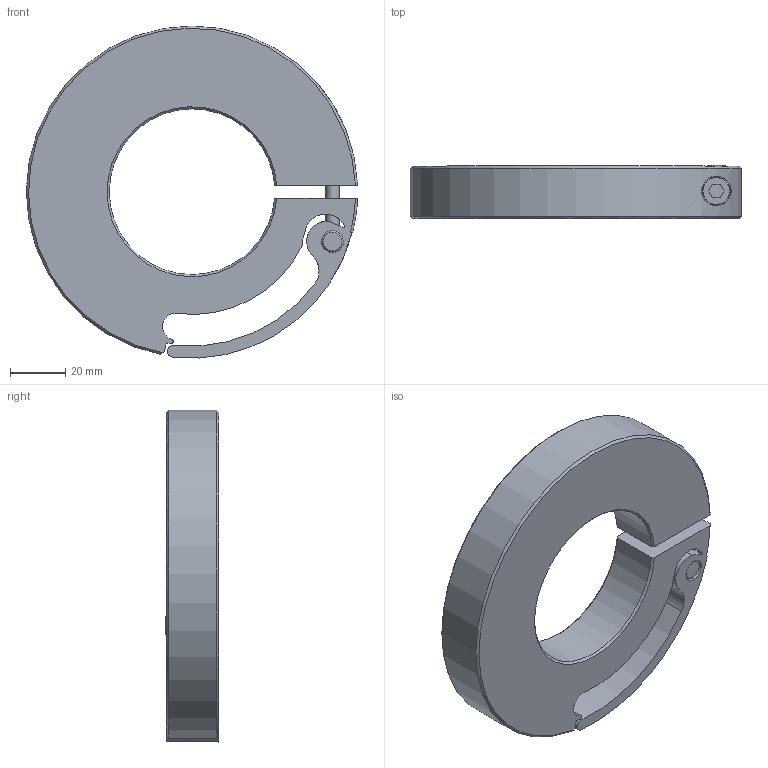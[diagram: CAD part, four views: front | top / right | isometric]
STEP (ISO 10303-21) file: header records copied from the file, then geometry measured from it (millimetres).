
FILE_DESCRIPTION((''),'2;1');
FILE_NAME('MQCL-60-A','2016-09-09T',('SYSTEM'),(''),'PRO/ENGINEER BY PARAMETRIC TECHNOLOGY CORPORATION, 2015110','PRO/ENGINEER BY PARAMETRIC TECHNOLOGY CORPORATION, 2015110','');
FILE_SCHEMA(('AUTOMOTIVE_DESIGN { 1 0 10303 214 1 1 1 1 }'));
Length unit declared in the file: metre
Products named in the file (1): MQCL-60-A
Bounding box: 119.95 x 19.43 x 120.21 mm (x, y, z)
Volume: 141026 mm3; surface area: 32307.7 mm2
Topology: 1 solids, 1 shells, 81 faces, 238 edges, 162 vertices
Faces by surface type: cylinder 40, plane 25, cone 16
Entity records: 3477 total; most frequent: CARTESIAN_POINT 750, DIRECTION 479, ORIENTED_EDGE 476, EDGE_CURVE 238, AXIS2_PLACEMENT_3D 192, VERTEX_POINT 162, CIRCLE 111, VECTOR 95
